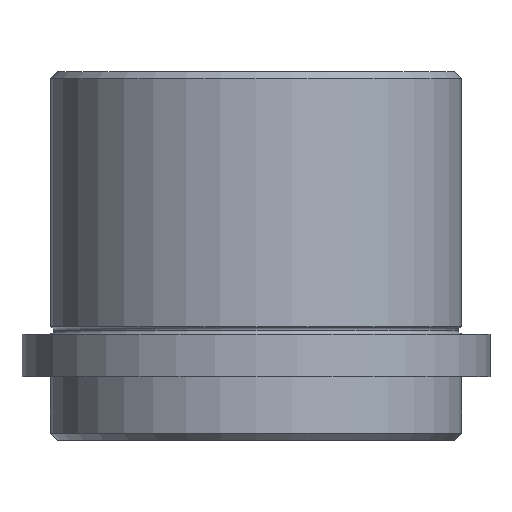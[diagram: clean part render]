
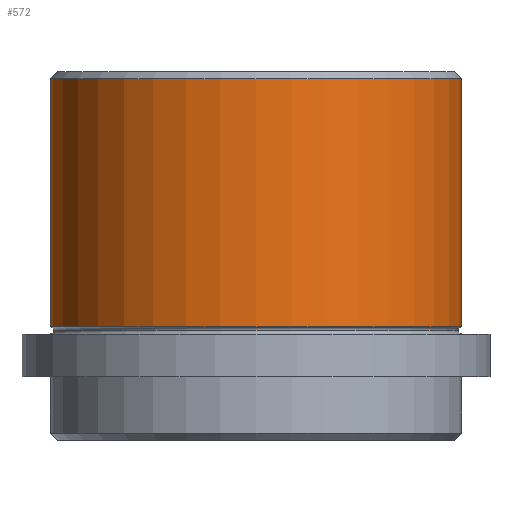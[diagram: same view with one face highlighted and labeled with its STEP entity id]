
A CAD part, front view. The second image highlights one B-rep face of the part: STEP entity #572.
In plain terms, the highlighted cylindrical face has radius 29 mm (diameter 58 mm), a partial arc.
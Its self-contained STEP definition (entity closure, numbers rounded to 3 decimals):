
#6 = CYLINDRICAL_SURFACE ( 'NONE', #831, 29. ) ;
#17 = CIRCLE ( 'NONE', #841, 29. ) ;
#30 = EDGE_CURVE ( 'NONE', #373, #883, #705, .T. ) ;
#41 = EDGE_CURVE ( 'NONE', #55, #90, #450, .T. ) ;
#51 = DIRECTION ( 'NONE',  ( -1., 0., 0. ) ) ;
#55 = VERTEX_POINT ( 'NONE', #587 ) ;
#90 = VERTEX_POINT ( 'NONE', #661 ) ;
#94 = EDGE_CURVE ( 'NONE', #90, #883, #308, .T. ) ;
#118 = ORIENTED_EDGE ( 'NONE', *, *, #94, .T. ) ;
#133 = CARTESIAN_POINT ( 'NONE',  ( -29., 0., -36. ) ) ;
#149 = CARTESIAN_POINT ( 'NONE',  ( 0., 0., -36. ) ) ;
#161 = ORIENTED_EDGE ( 'NONE', *, *, #41, .T. ) ;
#180 = ORIENTED_EDGE ( 'NONE', *, *, #30, .F. ) ;
#237 = DIRECTION ( 'NONE',  ( 0., 0., 1. ) ) ;
#253 = ORIENTED_EDGE ( 'NONE', *, *, #574, .T. ) ;
#308 = CIRCLE ( 'NONE', #418, 29. ) ;
#373 = VERTEX_POINT ( 'NONE', #133 ) ;
#380 = CARTESIAN_POINT ( 'NONE',  ( -29., 0., 0. ) ) ;
#388 = DIRECTION ( 'NONE',  ( 1., 0., 0. ) ) ;
#418 = AXIS2_PLACEMENT_3D ( 'NONE', #710, #563, #51 ) ;
#450 = LINE ( 'NONE', #684, #478 ) ;
#478 = VECTOR ( 'NONE', #756, 1000. ) ;
#502 = VECTOR ( 'NONE', #237, 1000. ) ;
#558 = EDGE_LOOP ( 'NONE', ( #180, #253, #161, #118 ) ) ;
#563 = DIRECTION ( 'NONE',  ( 0., 0., -1. ) ) ;
#572 = ADVANCED_FACE ( 'NONE', ( #596 ), #6, .T. ) ;
#574 = EDGE_CURVE ( 'NONE', #373, #55, #17, .T. ) ;
#587 = CARTESIAN_POINT ( 'NONE',  ( 29., 0., -36. ) ) ;
#596 = FACE_OUTER_BOUND ( 'NONE', #558, .T. ) ;
#661 = CARTESIAN_POINT ( 'NONE',  ( 29., 0., -1. ) ) ;
#684 = CARTESIAN_POINT ( 'NONE',  ( 29., 0., 0. ) ) ;
#705 = LINE ( 'NONE', #380, #502 ) ;
#710 = CARTESIAN_POINT ( 'NONE',  ( 0., 0., -1. ) ) ;
#756 = DIRECTION ( 'NONE',  ( 0., 0., 1. ) ) ;
#781 = DIRECTION ( 'NONE',  ( 0., 0., 1. ) ) ;
#786 = DIRECTION ( 'NONE',  ( 0., 0., 1. ) ) ;
#813 = CARTESIAN_POINT ( 'NONE',  ( 0., 0., 0. ) ) ;
#831 = AXIS2_PLACEMENT_3D ( 'NONE', #813, #781, #855 ) ;
#841 = AXIS2_PLACEMENT_3D ( 'NONE', #149, #786, #388 ) ;
#855 = DIRECTION ( 'NONE',  ( 1., 0., 0. ) ) ;
#860 = CARTESIAN_POINT ( 'NONE',  ( -29., 0., -1. ) ) ;
#883 = VERTEX_POINT ( 'NONE', #860 ) ;
